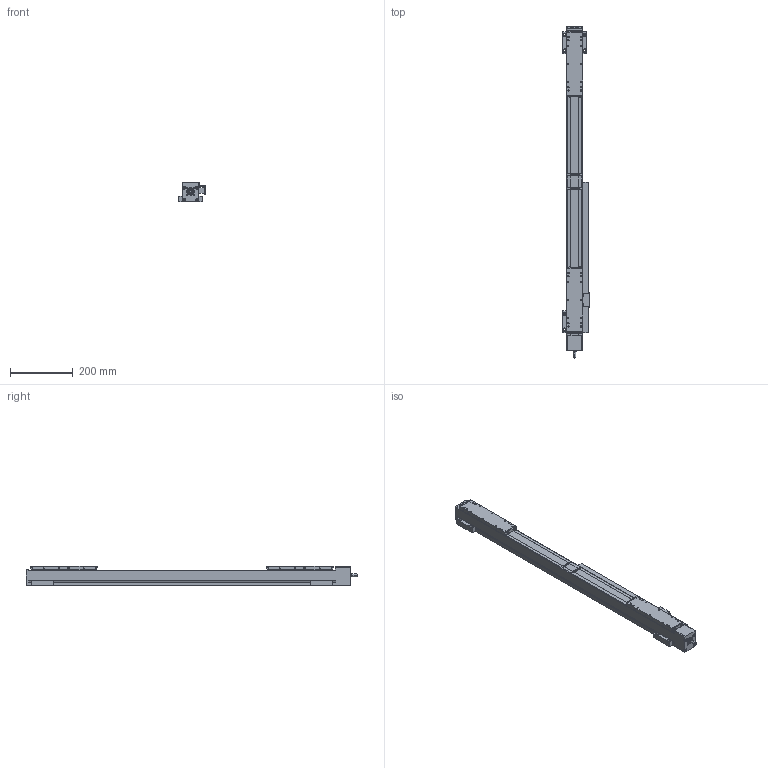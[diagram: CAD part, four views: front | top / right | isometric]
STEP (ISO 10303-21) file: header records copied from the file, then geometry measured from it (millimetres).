
FILE_DESCRIPTION(('Creo Elements/Direct Modeling STEP Export'),'2;1');
FILE_NAME('B050-C-SRS-RL-200-EN.stp','2025-01-14T14:59:58',(''),(''),'Creo Elements/Direct Modeling STEP processor for AP214 (Solid Model)','Creo Elements/Direct Modeling 20.1D 10-Oct-2020 (C) Parametric Technology GmbH','');
FILE_SCHEMA(('AUTOMOTIVE_DESIGN { 1 0 10303 214 1 1 1 1 }'));
Products named in the file (21): B050-C-SRS-GRUNDKOERPER-BLAU.PRT.01; B050-C-S-GRUNDKOERPER.ASM; BETA-S-GRUNDKOERPER.ASM; B050-ABSTREIFER-BUERSTE-B_10575.PRT; M2-5X8_DIN7500_10270.PRT.51; B050-ABSTREIFER-BUERSTE-BLAU.ASM; B050-ABSTREIFER.ASM; B050-C-SRS-SCHLITTEN-200.PRT; B050-C-S-SCHLITTEN.ASM; BETA-S-SCHLITTEN.ASM; EN-SCHALTFAHNE-10407.PRT; M4X6_ISO7380-1_10251.PRT; EN-SCHALTFAHNE-10407.ASM; EN-LEISTE.PRT; EN-SCHALTER.PRT; INDUKTIVE-ENDSCHALTER.ASM; BETA-ENDSCHALTER.ASM; BL1_10552.PRT.53; BL1-PAAR_10552.ASM; BETA-BEFESTIGUNGSELEMENTE.ASM; B050-C-SRS-RL-200-EN-Leiste-Seite-C
Assembly tree (28 placements, depth 6):
  B050-C-SRS-RL-200-EN-Leiste-Seite-C
    BETA-BEFESTIGUNGSELEMENTE.ASM
      BL1-PAAR_10552.ASM  x2
        BL1_10552.PRT.53
    BETA-ENDSCHALTER.ASM
      INDUKTIVE-ENDSCHALTER.ASM
        EN-SCHALTER.PRT  x3
        EN-LEISTE.PRT
      EN-SCHALTFAHNE-10407.ASM
        M4X6_ISO7380-1_10251.PRT  x2
        EN-SCHALTFAHNE-10407.PRT
    BETA-S-SCHLITTEN.ASM
      B050-C-S-SCHLITTEN.ASM  x2
        B050-ABSTREIFER.ASM
          B050-ABSTREIFER-BUERSTE-BLAU.ASM
            M2-5X8_DIN7500_10270.PRT.51  x2
            B050-ABSTREIFER-BUERSTE-B_10575.PRT
        B050-C-SRS-SCHLITTEN-200.PRT
    BETA-S-GRUNDKOERPER.ASM
      B050-C-S-GRUNDKOERPER.ASM
        B050-C-SRS-GRUNDKOERPER-BLAU.PRT.01
Bounding box: 84.4 x 1055 x 62 mm (x, y, z)
Volume: 2922990 mm3; surface area: 401154.2 mm2
Topology: 26 solids, 26 shells, 3390 faces, 9163 edges, 5935 vertices
Faces by surface type: plane 2510, cylinder 528, cone 294, torus 38, sphere 20
Entity records: 101405 total; most frequent: CARTESIAN_POINT 15390, ORIENTED_EDGE 14910, DIRECTION 12967, EDGE_CURVE 7455, VECTOR 6863, LINE 6863, VERTEX_POINT 4926, AXIS2_PLACEMENT_3D 3052
